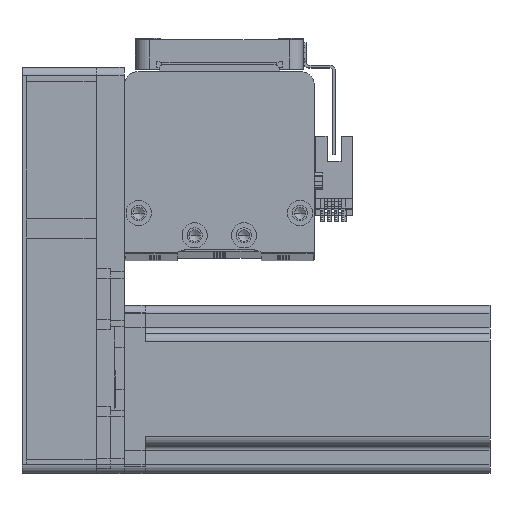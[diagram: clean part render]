
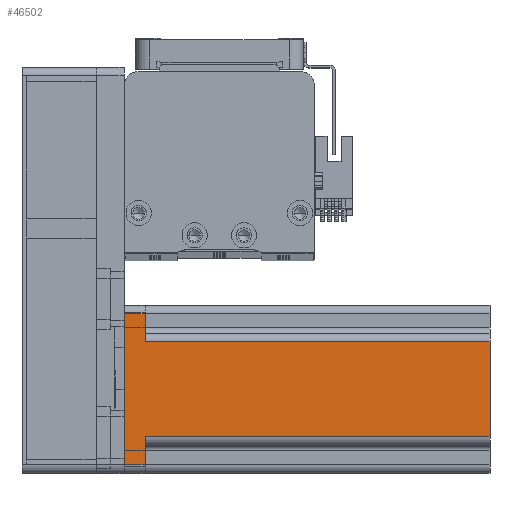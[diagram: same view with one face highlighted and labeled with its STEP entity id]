
A CAD part, top view. The second image highlights one B-rep face of the part: STEP entity #46502.
In plain terms, the highlighted planar face has unit normal (0, 0, 1) as drawn and (0, -1, 0) by its records, which use the part's own axes.
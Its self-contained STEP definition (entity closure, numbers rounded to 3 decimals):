
#3070 = VECTOR ( 'NONE', #38256, 1000. ) ;
#3636 = EDGE_LOOP ( 'NONE', ( #38929, #23597, #22717, #31784, #14342, #52091, #13476, #26267 ) ) ;
#5299 = CARTESIAN_POINT ( 'NONE',  ( -17., -30., 130.7 ) ) ;
#6142 = CARTESIAN_POINT ( 'NONE',  ( 30., -30., 0. ) ) ;
#6615 = EDGE_CURVE ( 'NONE', #18057, #26446, #19012, .T. ) ;
#7008 = VERTEX_POINT ( 'NONE', #7812 ) ;
#7086 = VECTOR ( 'NONE', #29371, 1000. ) ;
#7812 = CARTESIAN_POINT ( 'NONE',  ( -27., -30., 7.5 ) ) ;
#10018 = CARTESIAN_POINT ( 'NONE',  ( -20., -30., 7.5 ) ) ;
#10101 = CARTESIAN_POINT ( 'NONE',  ( -17., -30., 130.7 ) ) ;
#10462 = VECTOR ( 'NONE', #33366, 1000. ) ;
#10737 = CARTESIAN_POINT ( 'NONE',  ( -27., -30., 0. ) ) ;
#12347 = VERTEX_POINT ( 'NONE', #50316 ) ;
#13476 = ORIENTED_EDGE ( 'NONE', *, *, #33806, .T. ) ;
#13720 = LINE ( 'NONE', #6142, #3070 ) ;
#14113 = EDGE_CURVE ( 'NONE', #7008, #12347, #17512, .T. ) ;
#14342 = ORIENTED_EDGE ( 'NONE', *, *, #22920, .T. ) ;
#14560 = AXIS2_PLACEMENT_3D ( 'NONE', #15211, #43336, #19274 ) ;
#15211 = CARTESIAN_POINT ( 'NONE',  ( 30., -30., 130.7 ) ) ;
#17512 = LINE ( 'NONE', #10018, #48350 ) ;
#17584 = DIRECTION ( 'NONE',  ( 0., 0., 1. ) ) ;
#17764 = CARTESIAN_POINT ( 'NONE',  ( 17., -30., 130.7 ) ) ;
#18057 = VERTEX_POINT ( 'NONE', #21279 ) ;
#18572 = VERTEX_POINT ( 'NONE', #45131 ) ;
#19012 = LINE ( 'NONE', #25316, #7086 ) ;
#19274 = DIRECTION ( 'NONE',  ( -1., 0., 0. ) ) ;
#19961 = EDGE_CURVE ( 'NONE', #36160, #18572, #48417, .T. ) ;
#21279 = CARTESIAN_POINT ( 'NONE',  ( 27., -30., 0. ) ) ;
#21505 = DIRECTION ( 'NONE',  ( 0., 0., -1. ) ) ;
#22091 = DIRECTION ( 'NONE',  ( 1., 0., 0. ) ) ;
#22717 = ORIENTED_EDGE ( 'NONE', *, *, #14113, .F. ) ;
#22920 = EDGE_CURVE ( 'NONE', #31059, #18057, #13720, .T. ) ;
#23014 = VECTOR ( 'NONE', #21505, 1000. ) ;
#23597 = ORIENTED_EDGE ( 'NONE', *, *, #45666, .T. ) ;
#24429 = VECTOR ( 'NONE', #39580, 1000. ) ;
#25053 = VERTEX_POINT ( 'NONE', #38202 ) ;
#25316 = CARTESIAN_POINT ( 'NONE',  ( 27., -30., 130.7 ) ) ;
#25368 = CARTESIAN_POINT ( 'NONE',  ( -27., -30., 130.7 ) ) ;
#26267 = ORIENTED_EDGE ( 'NONE', *, *, #49045, .T. ) ;
#26446 = VERTEX_POINT ( 'NONE', #35963 ) ;
#27442 = CARTESIAN_POINT ( 'NONE',  ( 20., -30., 7.5 ) ) ;
#29371 = DIRECTION ( 'NONE',  ( 0., 0., 1. ) ) ;
#31059 = VERTEX_POINT ( 'NONE', #10737 ) ;
#31784 = ORIENTED_EDGE ( 'NONE', *, *, #37405, .T. ) ;
#31811 = LINE ( 'NONE', #5299, #10462 ) ;
#32351 = FACE_OUTER_BOUND ( 'NONE', #3636, .T. ) ;
#33366 = DIRECTION ( 'NONE',  ( 0., 0., -1. ) ) ;
#33691 = LINE ( 'NONE', #25368, #23014 ) ;
#33806 = EDGE_CURVE ( 'NONE', #26446, #25053, #35128, .T. ) ;
#35128 = LINE ( 'NONE', #27442, #24429 ) ;
#35145 = CARTESIAN_POINT ( 'NONE',  ( 30., -30., 130.7 ) ) ;
#35963 = CARTESIAN_POINT ( 'NONE',  ( 27., -30., 7.5 ) ) ;
#36160 = VERTEX_POINT ( 'NONE', #10101 ) ;
#37405 = EDGE_CURVE ( 'NONE', #7008, #31059, #33691, .T. ) ;
#38202 = CARTESIAN_POINT ( 'NONE',  ( 17., -30., 7.5 ) ) ;
#38256 = DIRECTION ( 'NONE',  ( 1., 0., 0. ) ) ;
#38929 = ORIENTED_EDGE ( 'NONE', *, *, #19961, .F. ) ;
#39580 = DIRECTION ( 'NONE',  ( -1., 0., 0. ) ) ;
#40218 = VECTOR ( 'NONE', #17584, 1000. ) ;
#41450 = LINE ( 'NONE', #17764, #40218 ) ;
#43336 = DIRECTION ( 'NONE',  ( 0., 1., 0. ) ) ;
#45131 = CARTESIAN_POINT ( 'NONE',  ( 17., -30., 130.7 ) ) ;
#45666 = EDGE_CURVE ( 'NONE', #36160, #12347, #31811, .T. ) ;
#46502 = ADVANCED_FACE ( 'NONE', ( #32351 ), #46838, .F. ) ;
#46838 = PLANE ( 'NONE',  #14560 ) ;
#47093 = DIRECTION ( 'NONE',  ( 1., 0., 0. ) ) ;
#47165 = VECTOR ( 'NONE', #47093, 1000. ) ;
#48350 = VECTOR ( 'NONE', #22091, 1000. ) ;
#48417 = LINE ( 'NONE', #35145, #47165 ) ;
#49045 = EDGE_CURVE ( 'NONE', #25053, #18572, #41450, .T. ) ;
#50316 = CARTESIAN_POINT ( 'NONE',  ( -17., -30., 7.5 ) ) ;
#52091 = ORIENTED_EDGE ( 'NONE', *, *, #6615, .T. ) ;
